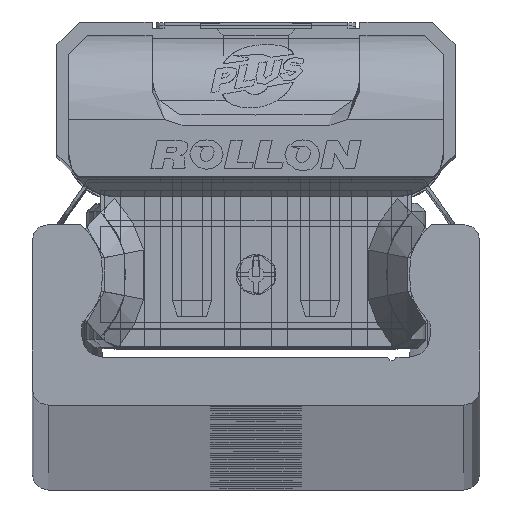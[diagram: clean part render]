
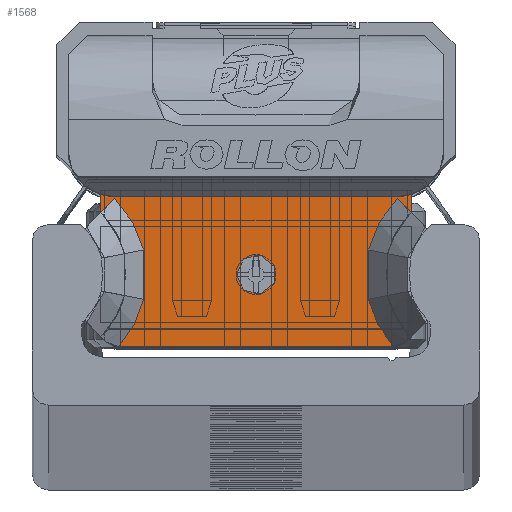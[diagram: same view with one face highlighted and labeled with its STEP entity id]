
A CAD part, top view. The second image highlights one B-rep face of the part: STEP entity #1568.
In plain terms, the highlighted planar face has unit normal (0, 0, 1) as drawn and (0, 0, -1) by its records, which use the part's own axes.
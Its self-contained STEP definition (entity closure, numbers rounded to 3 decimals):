
#1568 = ADVANCED_FACE( '', ( #3599, #3600 ), #3601, .F. );
#3599 = FACE_BOUND( '', #6076, .T. );
#3600 = FACE_OUTER_BOUND( '', #6077, .T. );
#3601 = PLANE( '', #6078 );
#6076 = EDGE_LOOP( '', ( #10449 ) );
#6077 = EDGE_LOOP( '', ( #10450, #10451, #10452, #10453, #10454, #10455, #10456, #10457, #10458, #10459, #10460, #10461, #10462, #10463 ) );
#6078 = AXIS2_PLACEMENT_3D( '', #10464, #10465, #10466 );
#10449 = ORIENTED_EDGE( '', *, *, #14130, .T. );
#10450 = ORIENTED_EDGE( '', *, *, #14910, .F. );
#10451 = ORIENTED_EDGE( '', *, *, #14593, .T. );
#10452 = ORIENTED_EDGE( '', *, *, #13817, .T. );
#10453 = ORIENTED_EDGE( '', *, *, #14911, .T. );
#10454 = ORIENTED_EDGE( '', *, *, #14912, .T. );
#10455 = ORIENTED_EDGE( '', *, *, #13872, .T. );
#10456 = ORIENTED_EDGE( '', *, *, #14913, .T. );
#10457 = ORIENTED_EDGE( '', *, *, #14894, .T. );
#10458 = ORIENTED_EDGE( '', *, *, #14914, .T. );
#10459 = ORIENTED_EDGE( '', *, *, #14606, .T. );
#10460 = ORIENTED_EDGE( '', *, *, #14915, .T. );
#10461 = ORIENTED_EDGE( '', *, *, #14451, .T. );
#10462 = ORIENTED_EDGE( '', *, *, #14916, .T. );
#10463 = ORIENTED_EDGE( '', *, *, #14917, .T. );
#10464 = CARTESIAN_POINT( '', ( 9.7, 4.89, -10.6 ) );
#10465 = DIRECTION( '', ( 0., 0., 1. ) );
#10466 = DIRECTION( '', ( 1., 0., 0. ) );
#13817 = EDGE_CURVE( '', #16536, #16540, #16542, .T. );
#13872 = EDGE_CURVE( '', #16632, #16630, #16633, .T. );
#14130 = EDGE_CURVE( '', #17061, #17061, #17062, .T. );
#14451 = EDGE_CURVE( '', #17561, #17559, #17562, .T. );
#14593 = EDGE_CURVE( '', #17763, #16536, #17764, .T. );
#14606 = EDGE_CURVE( '', #17446, #17323, #17781, .T. );
#14894 = EDGE_CURVE( '', #18210, #18208, #18211, .T. );
#14910 = EDGE_CURVE( '', #17763, #18233, #18234, .T. );
#14911 = EDGE_CURVE( '', #16540, #18235, #18236, .T. );
#14912 = EDGE_CURVE( '', #18235, #16632, #18237, .T. );
#14913 = EDGE_CURVE( '', #16630, #18210, #18238, .T. );
#14914 = EDGE_CURVE( '', #18208, #17446, #18239, .T. );
#14915 = EDGE_CURVE( '', #17323, #17561, #18240, .T. );
#14916 = EDGE_CURVE( '', #17559, #18241, #18242, .T. );
#14917 = EDGE_CURVE( '', #18241, #18233, #18243, .T. );
#16536 = VERTEX_POINT( '', #20391 );
#16540 = VERTEX_POINT( '', #20397 );
#16542 = LINE( '', #20400, #20401 );
#16630 = VERTEX_POINT( '', #20535 );
#16632 = VERTEX_POINT( '', #20538 );
#16633 = LINE( '', #20539, #20540 );
#17061 = VERTEX_POINT( '', #21188 );
#17062 = CIRCLE( '', #21189, 1.25 );
#17323 = VERTEX_POINT( '', #21572 );
#17446 = VERTEX_POINT( '', #21761 );
#17559 = VERTEX_POINT( '', #21898 );
#17561 = VERTEX_POINT( '', #21901 );
#17562 = B_SPLINE_CURVE_WITH_KNOTS( '', 2, ( #21902, #21903, #21904 ), .UNSPECIFIED., .F., .F., ( 3, 3 ), ( 0., 1. ), .UNSPECIFIED. );
#17763 = VERTEX_POINT( '', #22185 );
#17764 = CIRCLE( '', #22186, 2.8 );
#17781 = LINE( '', #22207, #22208 );
#18208 = VERTEX_POINT( '', #22737 );
#18210 = VERTEX_POINT( '', #22740 );
#18211 = B_SPLINE_CURVE_WITH_KNOTS( '', 2, ( #22741, #22742, #22743 ), .UNSPECIFIED., .F., .F., ( 3, 3 ), ( 0., 1. ), .UNSPECIFIED. );
#18233 = VERTEX_POINT( '', #22771 );
#18234 = LINE( '', #22772, #22773 );
#18235 = VERTEX_POINT( '', #22774 );
#18236 = CIRCLE( '', #22775, 2.8 );
#18237 = LINE( '', #22776, #22777 );
#18238 = B_SPLINE_CURVE_WITH_KNOTS( '', 2, ( #22778, #22779, #22780, #22781, #22782 ), .UNSPECIFIED., .F., .F., ( 3, 2, 3 ), ( 0., 0.5, 1. ), .UNSPECIFIED. );
#18239 = B_SPLINE_CURVE_WITH_KNOTS( '', 2, ( #22783, #22784, #22785 ), .UNSPECIFIED., .F., .F., ( 3, 3 ), ( 0., 1. ), .UNSPECIFIED. );
#18240 = B_SPLINE_CURVE_WITH_KNOTS( '', 2, ( #22786, #22787, #22788 ), .UNSPECIFIED., .F., .F., ( 3, 3 ), ( 0.1, 1. ), .UNSPECIFIED. );
#18241 = VERTEX_POINT( '', #22789 );
#18242 = B_SPLINE_CURVE_WITH_KNOTS( '', 2, ( #22790, #22791, #22792 ), .UNSPECIFIED., .F., .F., ( 3, 3 ), ( 0., 1. ), .UNSPECIFIED. );
#18243 = LINE( '', #22793, #22794 );
#20391 = CARTESIAN_POINT( '', ( -8.95, 4.51, -10.6 ) );
#20397 = CARTESIAN_POINT( '', ( 8.95, 4.51, -10.6 ) );
#20400 = CARTESIAN_POINT( '', ( 9.7, 4.51, -10.6 ) );
#20401 = VECTOR( '', #24704, 1000. );
#20535 = CARTESIAN_POINT( '', ( 8.853, 4.366, -10.6 ) );
#20538 = CARTESIAN_POINT( '', ( 9.7, 3.497, -10.6 ) );
#20539 = CARTESIAN_POINT( '', ( 9.7, 3.501, -10.6 ) );
#20540 = VECTOR( '', #24760, 1000. );
#21188 = CARTESIAN_POINT( '', ( 1.25, -0.39, -10.6 ) );
#21189 = AXIS2_PLACEMENT_3D( '', #25086, #25087, #25088 );
#21572 = CARTESIAN_POINT( '', ( -8.59, -4.893, -10.6 ) );
#21761 = CARTESIAN_POINT( '', ( 8.59, -4.893, -10.6 ) );
#21898 = CARTESIAN_POINT( '', ( -7.031, 1.144, -10.6 ) );
#21901 = CARTESIAN_POINT( '', ( -7.031, -1.944, -10.6 ) );
#21902 = CARTESIAN_POINT( '', ( -7.031, -1.944, -10.6 ) );
#21903 = CARTESIAN_POINT( '', ( -6.929, -0.4, -10.6 ) );
#21904 = CARTESIAN_POINT( '', ( -7.031, 1.144, -10.6 ) );
#22185 = CARTESIAN_POINT( '', ( -9.7, 4.612, -10.6 ) );
#22186 = AXIS2_PLACEMENT_3D( '', #25714, #25715, #25716 );
#22207 = CARTESIAN_POINT( '', ( 9.7, -4.89, -10.6 ) );
#22208 = VECTOR( '', #25736, 1000. );
#22737 = CARTESIAN_POINT( '', ( 7.031, -1.944, -10.6 ) );
#22740 = CARTESIAN_POINT( '', ( 7.031, 1.144, -10.6 ) );
#22741 = CARTESIAN_POINT( '', ( 7.031, 1.144, -10.6 ) );
#22742 = CARTESIAN_POINT( '', ( 6.929, -0.4, -10.6 ) );
#22743 = CARTESIAN_POINT( '', ( 7.031, -1.944, -10.6 ) );
#22771 = CARTESIAN_POINT( '', ( -9.7, 3.494, -10.6 ) );
#22772 = CARTESIAN_POINT( '', ( -9.7, 4.89, -10.6 ) );
#22773 = VECTOR( '', #26211, 1000. );
#22774 = CARTESIAN_POINT( '', ( 9.7, 4.612, -10.6 ) );
#22775 = AXIS2_PLACEMENT_3D( '', #26212, #26213, #26214 );
#22776 = CARTESIAN_POINT( '', ( 9.7, 4.89, -10.6 ) );
#22777 = VECTOR( '', #26215, 1000. );
#22778 = CARTESIAN_POINT( '', ( 8.853, 4.366, -10.6 ) );
#22779 = CARTESIAN_POINT( '', ( 8.182, 3.708, -10.6 ) );
#22780 = CARTESIAN_POINT( '', ( 7.715, 2.883, -10.6 ) );
#22781 = CARTESIAN_POINT( '', ( 7.249, 2.058, -10.6 ) );
#22782 = CARTESIAN_POINT( '', ( 7.031, 1.144, -10.6 ) );
#22783 = CARTESIAN_POINT( '', ( 7.031, -1.944, -10.6 ) );
#22784 = CARTESIAN_POINT( '', ( 7.429, -3.615, -10.6 ) );
#22785 = CARTESIAN_POINT( '', ( 8.588, -4.89, -10.6 ) );
#22786 = CARTESIAN_POINT( '', ( -8.587, -4.89, -10.6 ) );
#22787 = CARTESIAN_POINT( '', ( -7.432, -3.63, -10.6 ) );
#22788 = CARTESIAN_POINT( '', ( -7.031, -1.944, -10.6 ) );
#22789 = CARTESIAN_POINT( '', ( -8.853, 4.366, -10.6 ) );
#22790 = CARTESIAN_POINT( '', ( -7.031, 1.144, -10.6 ) );
#22791 = CARTESIAN_POINT( '', ( -7.477, 3.018, -10.6 ) );
#22792 = CARTESIAN_POINT( '', ( -8.853, 4.366, -10.6 ) );
#22793 = CARTESIAN_POINT( '', ( -8.853, 4.366, -10.6 ) );
#22794 = VECTOR( '', #26216, 1000. );
#24704 = DIRECTION( '', ( 1., 0., 0. ) );
#24760 = DIRECTION( '', ( -0.7, 0.714, 0. ) );
#25086 = CARTESIAN_POINT( '', ( 0., -0.39, -10.6 ) );
#25087 = DIRECTION( '', ( 0., 0., 1. ) );
#25088 = DIRECTION( '', ( 1., 0., 0. ) );
#25714 = CARTESIAN_POINT( '', ( -8.95, 7.31, -10.6 ) );
#25715 = DIRECTION( '', ( 0., 0., 1. ) );
#25716 = DIRECTION( '', ( 1., 0., 0. ) );
#25736 = DIRECTION( '', ( -1., 0., 0. ) );
#26211 = DIRECTION( '', ( 0., -1., 0. ) );
#26212 = CARTESIAN_POINT( '', ( 8.95, 7.31, -10.6 ) );
#26213 = DIRECTION( '', ( 0., 0., 1. ) );
#26214 = DIRECTION( '', ( 1., 0., 0. ) );
#26215 = DIRECTION( '', ( 0., -1., 0. ) );
#26216 = DIRECTION( '', ( -0.7, -0.714, 0. ) );
